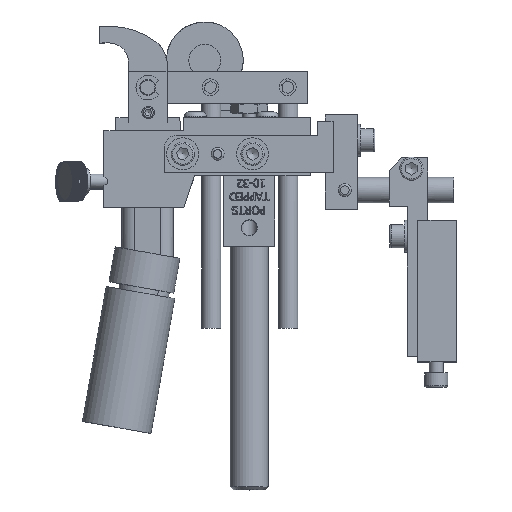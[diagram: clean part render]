
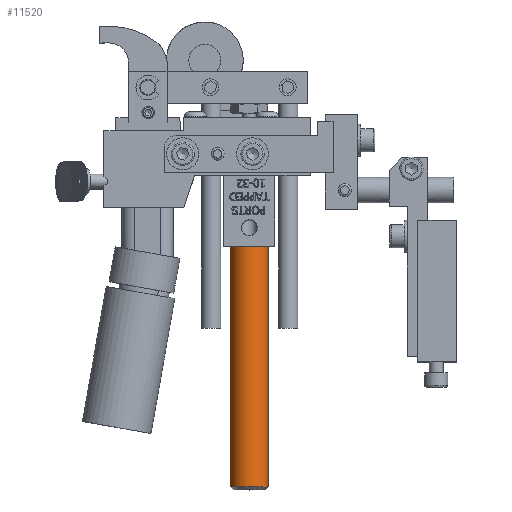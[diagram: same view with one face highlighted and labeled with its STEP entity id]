
A CAD part, top view. The second image highlights one B-rep face of the part: STEP entity #11520.
In plain terms, the highlighted cylindrical face has radius 4.763 mm (diameter 9.525 mm), a full revolution.
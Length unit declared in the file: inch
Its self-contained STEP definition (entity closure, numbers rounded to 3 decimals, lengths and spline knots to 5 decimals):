
#11489=CARTESIAN_POINT('',(0.44163,-3.93233,-0.0475));
#11490=VERTEX_POINT('',#11489);
#11491=CARTESIAN_POINT('',(0.44163,-3.93233,-0.235));
#11492=DIRECTION('',(0.0,-1.0,0.0));
#11493=DIRECTION('',(0.0,0.0,-1.0));
#11494=AXIS2_PLACEMENT_3D('',#11491,#11492,#11493);
#11495=CIRCLE('',#11494,0.1875);
#11496=EDGE_CURVE('',#11490,#11490,#11495,.T.);
#11501=CARTESIAN_POINT('',(0.44163,-1.58733,-0.235));
#11502=DIRECTION('',(0.,-1.0,0.));
#11503=DIRECTION('',(0.0,0.0,-1.0));
#11504=AXIS2_PLACEMENT_3D('',#11501,#11502,#11503);
#11505=CYLINDRICAL_SURFACE('',#11504,0.1875);
#11506=CARTESIAN_POINT('',(0.44163,-1.58733,-0.0475));
#11507=VERTEX_POINT('',#11506);
#11508=CARTESIAN_POINT('',(0.44163,-1.58733,-0.235));
#11509=DIRECTION('',(0.0,1.0,0.0));
#11510=DIRECTION('',(0.0,0.0,-1.0));
#11511=AXIS2_PLACEMENT_3D('',#11508,#11509,#11510);
#11512=CIRCLE('',#11511,0.1875);
#11513=EDGE_CURVE('',#11507,#11507,#11512,.T.);
#11514=ORIENTED_EDGE('',*,*,#11513,.F.);
#11515=EDGE_LOOP('',(#11514));
#11516=FACE_OUTER_BOUND('',#11515,.T.);
#11517=ORIENTED_EDGE('',*,*,#11496,.F.);
#11518=EDGE_LOOP('',(#11517));
#11519=FACE_BOUND('',#11518,.T.);
#11520=ADVANCED_FACE('',(#11516,#11519),#11505,.T.);
